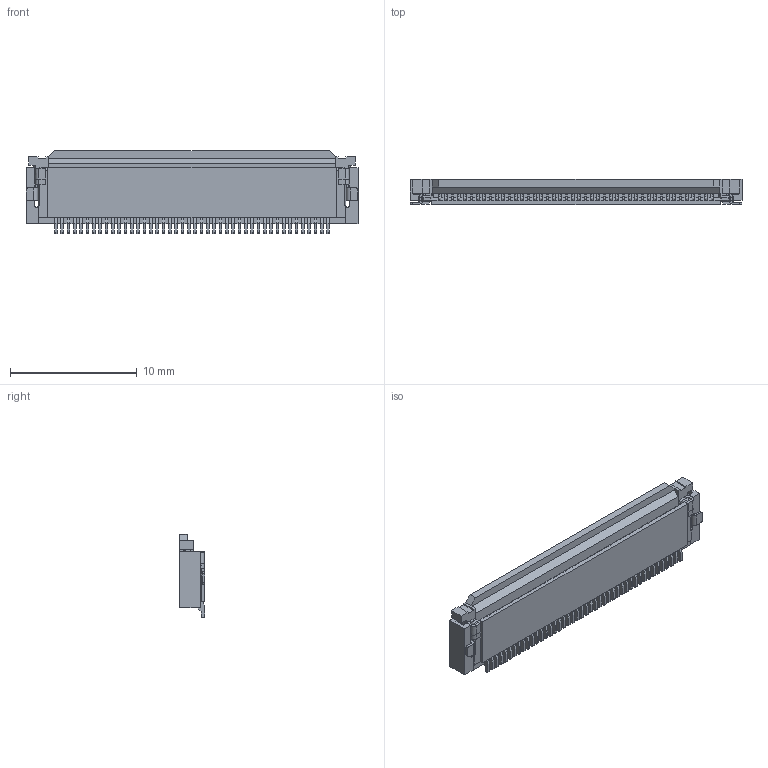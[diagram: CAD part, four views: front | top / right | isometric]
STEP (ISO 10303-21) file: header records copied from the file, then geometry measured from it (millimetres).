
FILE_DESCRIPTION((''),'2;1');
FILE_NAME('S-51619-044XX-XXX','2014-09-23T',('k41758'),(''),'PRO/ENGINEER BY PARAMETRIC TECHNOLOGY CORPORATION, 2009360','PRO/ENGINEER BY PARAMETRIC TECHNOLOGY CORPORATION, 2009360','');
FILE_SCHEMA(('CONFIG_CONTROL_DESIGN'));
Products named in the file (1): S-51619-044XX-XXX
Bounding box: 26.2 x 2.03 x 6.55 mm (x, y, z)
Volume: 184.6 mm3; surface area: 912.3 mm2
Topology: 1 solids, 1 shells, 2526 faces, 8814 edges, 6717 vertices
Faces by surface type: plane 1941, cylinder 585
Entity records: 93837 total; most frequent: CARTESIAN_POINT 17296, ORIENTED_EDGE 16498, DIRECTION 15305, EDGE_CURVE 8249, VECTOR 7223, LINE 7223, VERTEX_POINT 5587, AXIS2_PLACEMENT_3D 4041
